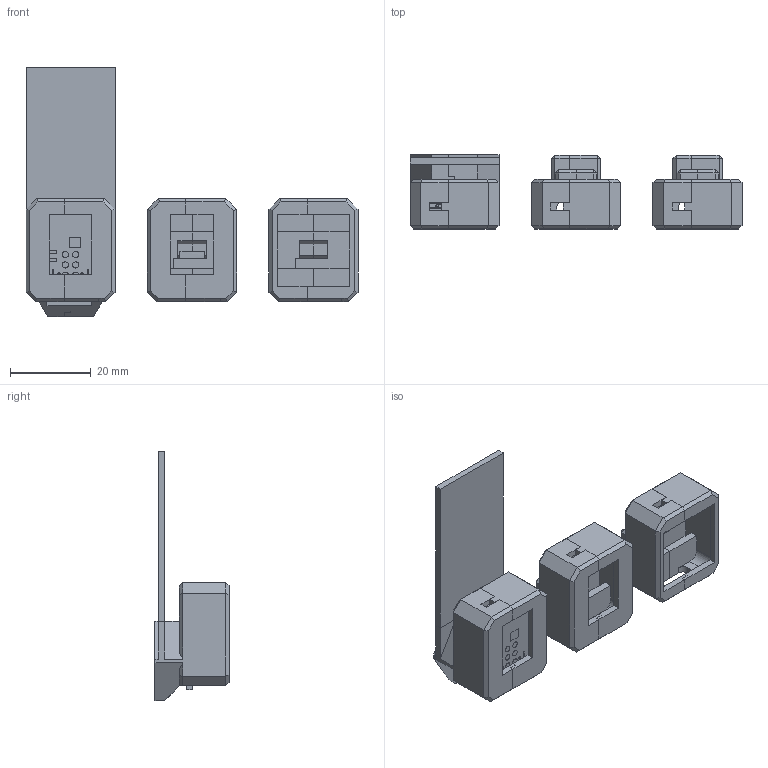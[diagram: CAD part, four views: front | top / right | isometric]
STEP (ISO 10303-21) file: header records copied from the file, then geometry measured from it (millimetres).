
FILE_DESCRIPTION(/* description */ (''),/* implementation_level */ '2;1');
FILE_NAME(/* name */ '27a7a72d-2ef4-4e07-ad59-8339d24bbf6d.stp',/* time_stamp */ '2023-12-20T15:56:38Z',/* author */ (''),/* organization */ (''),/* preprocessor_version */ 'ST-DEVELOPER v20',/* originating_system */ 'Autodesk Translation Framework v12.14.0.127',/* authorisation */ '');
FILE_SCHEMA (('AUTOMOTIVE_DESIGN { 1 0 10303 214 3 1 1 }'));
Products named in the file (42): Xiao Sense Case; Seeed Studio XIAO-ESP32-S3-Sense v1; Seeed Studio XIAO-ESP32-S3 (Sense); USB TYPE C PORT; USB TYPE C PORT (1); BOSS-EXTRUDE14_8_; BOSS-EXTRUDE7_4_; BOSS-EXTRUDE7_3_; BOSS-EXTRUDE14_4_; BOSS-EXTRUDE14_2_; BOSS-EXTRUDE14_11_; BOSS-EXTRUDE7_7_; BOSS-EXTRUDE14_9_; BOSS-EXTRUDE14_3_; BOSS-EXTRUDE14_7_; MIRROR2; BOSS-EXTRUDE14_5_; BOSS-EXTRUDE14_12_; BOSS-EXTRUDE7_8_; BOSS-EXTRUDE7_1_; BOSS-EXTRUDE14_10_; BOSS-EXTRUDE7_9_; BOSS-EXTRUDE14_6_; CHAMFER9; BOSS-EXTRUDE14_1_; BOSS-EXTRUDE7_6_; BOSS-EXTRUDE7_2_; CUT-EXTRUDE5; BOSS-EXTRUDE7_5_; Shield; U.FL-R-SMT-1_10_ v1; DF40C-30DP-0.4V_51_ v1; SKTAAAE010 v1; Body; Pins; Sense Expansion Board; DF40HC(3.0)-30DS; 10067099-200LF v1; PCB; MicroSD v2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
Assembly tree (42 placements, depth 6):
  Xiao Sense Case
    Seeed Studio XIAO-ESP32-S3-Sense v1
      Seeed Studio XIAO-ESP32-S3 (Sense)
        USB TYPE C PORT
          USB TYPE C PORT (1)
            BOSS-EXTRUDE14_8_
            BOSS-EXTRUDE7_4_
            BOSS-EXTRUDE7_3_
            BOSS-EXTRUDE14_4_
            BOSS-EXTRUDE14_2_
            BOSS-EXTRUDE14_11_
            BOSS-EXTRUDE7_7_
            BOSS-EXTRUDE14_9_
            BOSS-EXTRUDE14_3_
            BOSS-EXTRUDE14_7_
            MIRROR2
            BOSS-EXTRUDE14_5_
            BOSS-EXTRUDE14_12_
            BOSS-EXTRUDE7_8_
            BOSS-EXTRUDE7_1_
            BOSS-EXTRUDE14_10_
            BOSS-EXTRUDE7_9_
            BOSS-EXTRUDE14_6_
            CHAMFER9
            BOSS-EXTRUDE14_1_
            BOSS-EXTRUDE7_6_
            BOSS-EXTRUDE7_2_
            CUT-EXTRUDE5
            BOSS-EXTRUDE7_5_
        Shield
        SKTAAAE010 v1  x2
          Body
          Pins
        U.FL-R-SMT-1_10_ v1
        DF40C-30DP-0.4V_51_ v1
      Sense Expansion Board
        DF40HC(3.0)-30DS
        10067099-200LF v1
        PCB
        MicroSD v2
        JUSHUO AFC01-S24FCA-00
      Camer Module
Bounding box: 81.98 x 18.28 x 61.53 mm (x, y, z)
Volume: 14058.1 mm3; surface area: 21029.1 mm2
Topology: 112 solids, 117 shells, 4293 faces, 11595 edges, 7555 vertices
Faces by surface type: plane 3402, cylinder 772, bspline 43, cone 36, torus 26, sphere 14
Full cylindrical faces by diameter (mm): 0.5 x3, 0.6 x2, 0.75 x14, 1.5 x4, 1.524 x8, 1.72 x1, 1.86 x1, 2 x2, 5.3 x2, 6.32 x2, 6.5 x2, 7.85 x2
Entity records: 136831 total; most frequent: CARTESIAN_POINT 25494, ORIENTED_EDGE 23062, DIRECTION 21755, EDGE_CURVE 11531, LINE 9761, VECTOR 9761, VERTEX_POINT 7515, AXIS2_PLACEMENT_3D 5997
